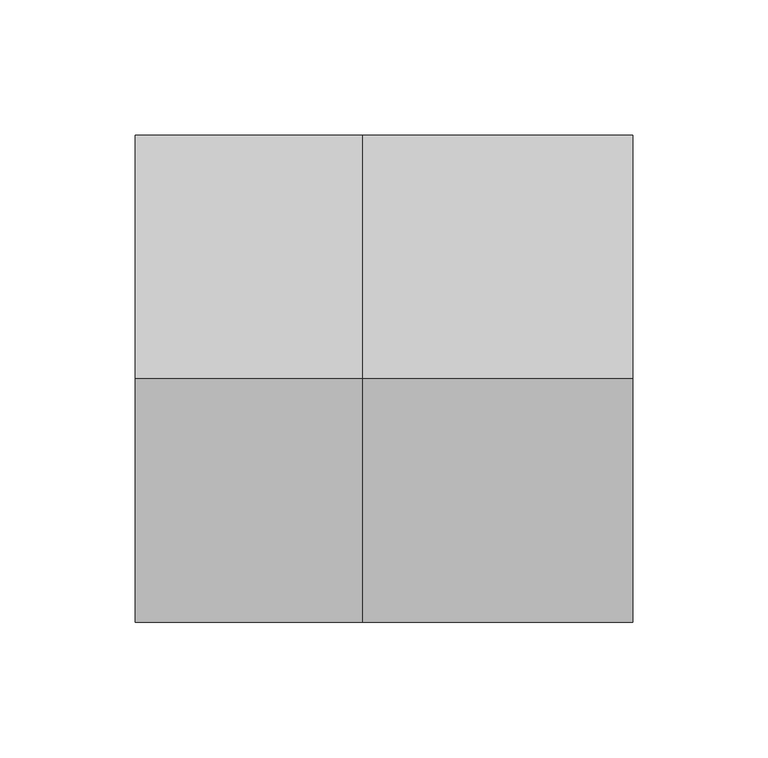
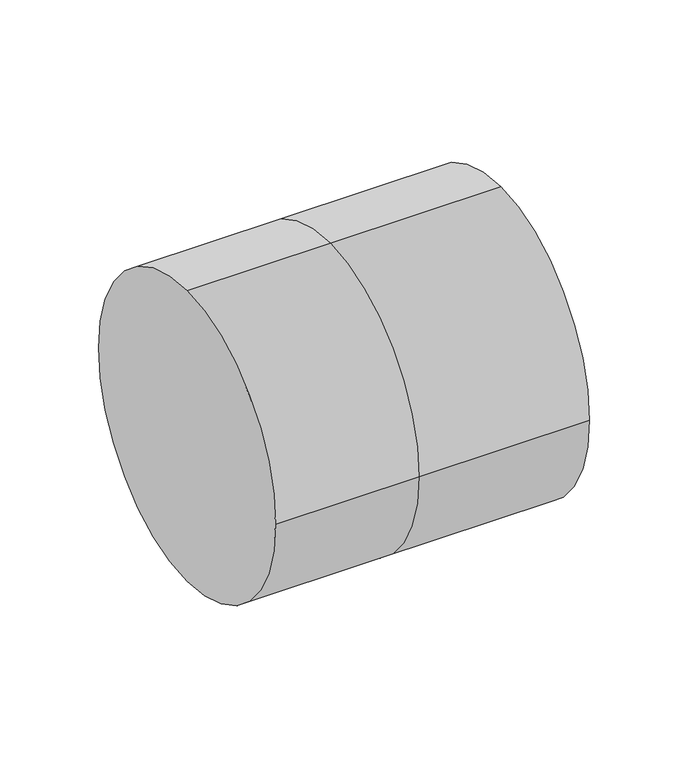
"""IFC4 building model written with IfcOpenShell, lengths in millimetres: duct fitting geometry, Врезка круглого сечения : Стандартное."""

from ifc_helpers import new_model, si_unit, frame, origin, place, context, project, spatial, circle_curve, source, transform, mapped, element, save
from ifc_brep_helpers import plane_surface, cylinder_surface, advanced_brep


def duct_fitting_42c6a5c8(model_context):
    return source(origin(), model_context, "Body", "AdvancedBrep", [
        advanced_brep(
        [(-83.904, 0.0, 90.0), (-83.904, 90.0, 0.0), (-83.904, 0.0, -90.0), (-83.904, -90.0, 0.0), (0.0, -90.0, 0.0), (0.0, 0.0, 90.0), (0.0, 0.0, -90.0), (0.0, 90.0, 0.0), (100.0, 0.0, 90.0), (100.0, -90.0, 0.0), (100.0, 0.0, -90.0), (100.0, 90.0, 0.0)],
        [
            (0, 1, circle_curve(frame((-83.904, 0.0, 0.0), z_axis=(-1.0, 0.0, 0.0), x_axis=(0.0, -1.0, 0.0)), 90.0)),
            (1, 2, circle_curve(frame((-83.904, 0.0, 0.0), z_axis=(-1.0, 0.0, 0.0), x_axis=(0.0, -1.0, 0.0)), 90.0)),
            (2, 3, circle_curve(frame((-83.904, 0.0, 0.0), z_axis=(-1.0, 0.0, 0.0), x_axis=(0.0, -1.0, 0.0)), 90.0)),
            (3, 0, circle_curve(frame((-83.904, 0.0, 0.0), z_axis=(-1.0, 0.0, 0.0), x_axis=(0.0, -1.0, 0.0)), 90.0)),
            (3, 4),
            (4, 5, circle_curve(frame((0.0, 0.0, 0.0), z_axis=(-1.0, 0.0, 0.0), x_axis=(0.0, -1.0, 0.0)), 90.0)),
            (5, 0),
            (2, 6),
            (6, 4, circle_curve(frame((0.0, 0.0, 0.0), z_axis=(-1.0, 0.0, 0.0), x_axis=(0.0, -1.0, 0.0)), 90.0)),
            (1, 7),
            (7, 6, circle_curve(frame((0.0, 0.0, 0.0), z_axis=(-1.0, 0.0, 0.0), x_axis=(0.0, -1.0, 0.0)), 90.0)),
            (5, 7, circle_curve(frame((0.0, 0.0, 0.0), z_axis=(-1.0, 0.0, 0.0), x_axis=(0.0, -1.0, 0.0)), 90.0)),
            (8, 9, circle_curve(frame((100.0, 0.0, 0.0), z_axis=(1.0, 0.0, 0.0), x_axis=(0.0, -1.0, 0.0)), 90.0)),
            (9, 10, circle_curve(frame((100.0, 0.0, 0.0), z_axis=(1.0, 0.0, 0.0), x_axis=(0.0, -1.0, 0.0)), 90.0)),
            (10, 11, circle_curve(frame((100.0, 0.0, 0.0), z_axis=(1.0, 0.0, 0.0), x_axis=(0.0, -1.0, 0.0)), 90.0)),
            (11, 8, circle_curve(frame((100.0, 0.0, 0.0), z_axis=(1.0, 0.0, 0.0), x_axis=(0.0, -1.0, 0.0)), 90.0)),
            (8, 5),
            (4, 9),
            (6, 10),
            (7, 11),
        ],
        [
            plane_surface(frame((-83.904, 0.0, 0.0), z_axis=(-1.0, 0.0, 0.0), x_axis=(0.0, 0.0, 1.0))),
            cylinder_surface(frame((-83.904, 0.0, 0.0), z_axis=(-1.0, 0.0, 0.0), x_axis=(0.0, -1.0, 0.0)), 90.0),
            plane_surface(frame((100.0, 0.0, 0.0), z_axis=(1.0, 0.0, 0.0), x_axis=(0.0, 0.0, 1.0))),
            cylinder_surface(frame((0.0, 0.0, 0.0), z_axis=(-1.0, 0.0, 0.0), x_axis=(0.0, -1.0, 0.0)), 90.0),
        ],
        [
            (0, [[1, 2, 3, 4]]),
            (1, [[5, 6, 7, -4]]),
            (1, [[8, 9, -5, -3]]),
            (1, [[10, 11, -8, -2]]),
            (1, [[-7, 12, -10, -1]]),
            (2, [[13, 14, 15, 16]]),
            (3, [[17, -6, 18, -13]]),
            (3, [[-18, -9, 19, -14]]),
            (3, [[-19, -11, 20, -15]]),
            (3, [[-20, -12, -17, -16]]),
        ],
    ),
    ])


if __name__ == "__main__":
    model = new_model("IFC4")
    model_context = context("Model", 3, world=origin())
    ifc_project = project(units=[si_unit("LENGTHUNIT", "METRE", prefix="MILLI")], contexts=[model_context])
    site = spatial("IfcSite", under=ifc_project)
    building = spatial("IfcBuilding", under=site)
    placement = place(None, origin())
    duct_fitting_shape = duct_fitting_42c6a5c8(model_context)
    element("IfcDuctFitting", 1, ObjectType="Врезка круглого сечения : Стандартное", at=placement, inside=building, context=model_context, shape_type="MappedRepresentation", body=[
        mapped(duct_fitting_shape, transform((0.0, 0.0, 0.0), x_axis=(1.0, 0.0, 0.0), y_axis=(0.0, 1.0, 0.0), z_axis=(0.0, 0.0, 1.0))),
    ])
    save(model, "model.ifc")
